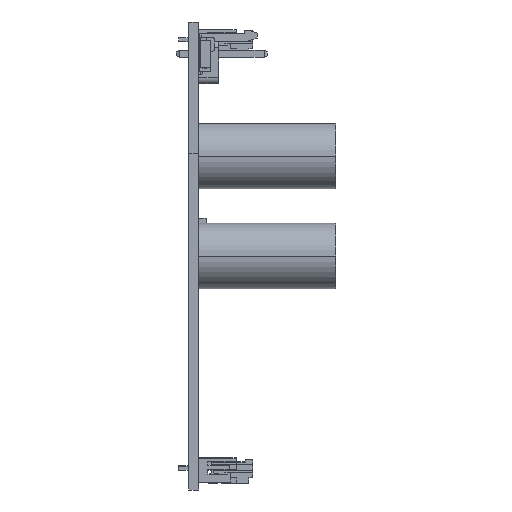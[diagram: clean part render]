
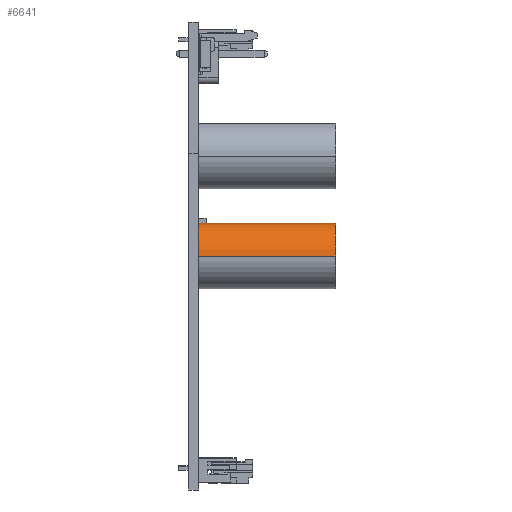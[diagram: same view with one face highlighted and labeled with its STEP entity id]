
A CAD part, left-side view. The second image highlights one B-rep face of the part: STEP entity #6641.
In plain terms, the highlighted cylindrical face has radius 5.25 mm (diameter 10.5 mm), a partial arc.
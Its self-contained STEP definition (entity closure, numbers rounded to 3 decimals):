
#6579=CARTESIAN_POINT('',(0.,0.,0.));
#6580=DIRECTION('',(0.,0.,1.));
#6581=DIRECTION('',(1.,0.,0.));
#6582=AXIS2_PLACEMENT_3D('',#6579,#6580,#6581);
#6589=DIRECTION('',(0.,0.,1.));
#6590=VECTOR('',#6589,22.);
#6591=CARTESIAN_POINT('',(5.25,0.,0.));
#6592=LINE('',#6591,#6590);
#6593=DIRECTION('',(0.,0.,1.));
#6594=VECTOR('',#6593,22.);
#6595=CARTESIAN_POINT('',(-5.25,0.,0.));
#6596=LINE('',#6595,#6594);
#6597=CARTESIAN_POINT('',(0.,0.,22.));
#6598=DIRECTION('',(0.,0.,1.));
#6599=DIRECTION('',(1.,0.,0.));
#6600=AXIS2_PLACEMENT_3D('',#6597,#6598,#6599);
#6607=CARTESIAN_POINT('',(5.25,0.,0.));
#6608=CARTESIAN_POINT('',(-5.25,0.,0.));
#6609=VERTEX_POINT('',#6607);
#6610=VERTEX_POINT('',#6608);
#6611=CARTESIAN_POINT('',(5.25,0.,22.));
#6612=CARTESIAN_POINT('',(-5.25,0.,22.));
#6613=VERTEX_POINT('',#6611);
#6614=VERTEX_POINT('',#6612);
#6627=CARTESIAN_POINT('',(0.,0.,0.));
#6628=DIRECTION('',(0.,0.,1.));
#6629=DIRECTION('',(1.,0.,0.));
#6630=AXIS2_PLACEMENT_3D('',#6627,#6628,#6629);
#6631=CYLINDRICAL_SURFACE('',#6630,5.25);
#6632=ORIENTED_EDGE('',*,*,#6620,.F.);
#6634=ORIENTED_EDGE('',*,*,#6633,.T.);
#6636=ORIENTED_EDGE('',*,*,#6635,.T.);
#6638=ORIENTED_EDGE('',*,*,#6637,.F.);
#6639=EDGE_LOOP('',(#6632,#6634,#6636,#6638));
#6640=FACE_OUTER_BOUND('',#6639,.F.);
#6641=ADVANCED_FACE('',(#6640),#6631,.T.);
#6583=CIRCLE('',#6582,5.25);
#6601=CIRCLE('',#6600,5.25);
#6620=EDGE_CURVE('',#6609,#6610,#6583,.T.);
#6633=EDGE_CURVE('',#6609,#6613,#6592,.T.);
#6635=EDGE_CURVE('',#6613,#6614,#6601,.T.);
#6637=EDGE_CURVE('',#6610,#6614,#6596,.T.);
